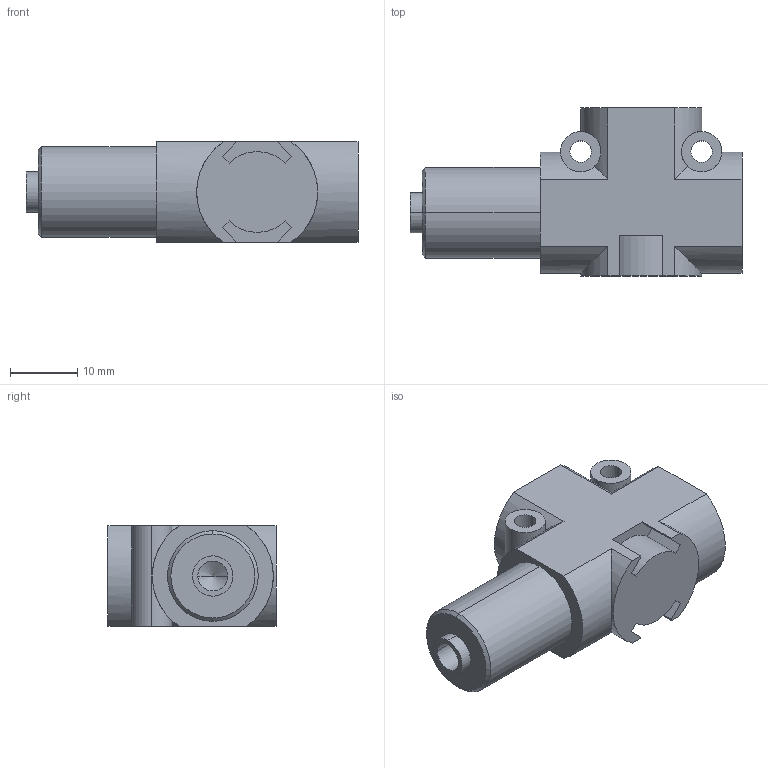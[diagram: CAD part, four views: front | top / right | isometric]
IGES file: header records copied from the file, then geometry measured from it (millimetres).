
Global section: file name: No Iges File Name specified; native system: Autodesk Inventor 2009; preprocessor: AutoDesk Inventor Iges Exporter R2009; author: rivolro1; date: 20090430.143919; units: millimetre
Bounding box: 49.4 x 25 x 15 mm (x, y, z)
Volume: 11124.3 mm3; surface area: 4907.2 mm2
Topology: 2 solids, 2 shells, 64 faces, 164 edges, 107 vertices
Faces by surface type: plane 21, bspline 18, cylinder 17, revolution 6, cone 2
